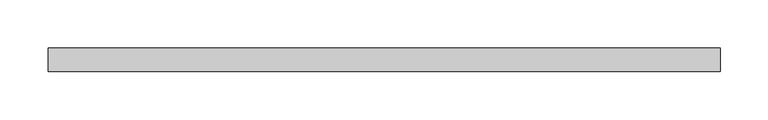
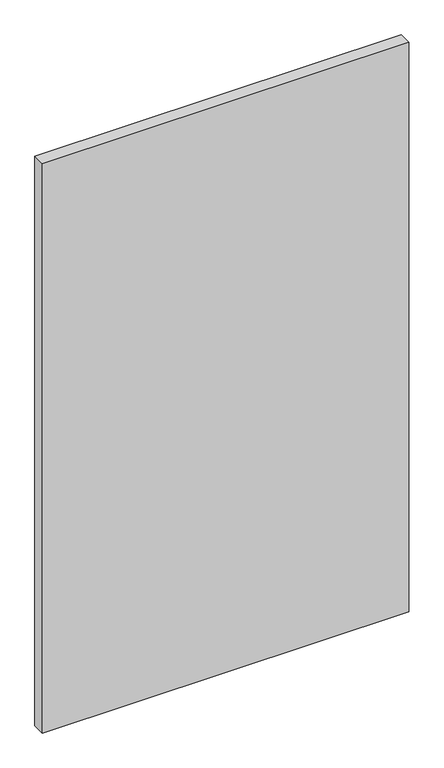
"""IFC4 building model written with IfcOpenShell, lengths in millimetres: plate geometry, Системная панель : С остеклением."""

import ifcopenshell
import ifcopenshell.guid

model = None  # the IFC model being written
_history = None  # IfcOwnerHistory: only IFC2X3 demands one
_inside = {}  # id of a spatial element -> (the spatial element, [elements in it])
_under = {}  # id of a project, library or spatial element -> (it, [spatial elements below it])
_declared = {}  # id of a project -> (the project, [libraries it declares])
_typed = {}  # id of a type object -> (the type object, [elements of that type])
_made_of = {}  # id of a material, layer set ... -> (it, [elements and type objects made of it])


def new_model(schema):
    """Start an empty IFC model of exactly this schema.

    Asked for "IFC4X3", IfcOpenShell would pick the latest addendum, in which some entities
    have other attributes; the version numbers below select the first issue.
    IFC2X3 requires an IfcOwnerHistory on every rooted entity: one is made here for all.
    """
    global model, _history
    if schema == "IFC4X3":
        model = ifcopenshell.file(schema_version=(4, 3, 0, 0))
    else:
        model = ifcopenshell.file(schema=schema)
    _inside.clear()
    _under.clear()
    _declared.clear()
    _typed.clear()
    _made_of.clear()
    _history = None
    if model.schema == "IFC2X3":
        org = make("IfcOrganization", Name="unknown")
        user = make(
            "IfcPersonAndOrganization",
            ThePerson=make("IfcPerson", FamilyName="unknown"),
            TheOrganization=org,
        )
        app = make(
            "IfcApplication",
            ApplicationDeveloper=org,
            Version="unknown",
            ApplicationFullName="unknown",
            ApplicationIdentifier="unknown",
        )
        _history = make(
            "IfcOwnerHistory",
            OwningUser=user,
            OwningApplication=app,
            ChangeAction="ADDED",
            CreationDate=0,
        )
    return model


def make(cls, **values):
    """One entity of the class cls with the attributes given. An attribute that is None is left unset."""
    return model.create_entity(
        cls, **{name: value for name, value in values.items() if value is not None}
    )


def rooted(cls, **values):
    """An entity with a GlobalId (a new one), such as an element, a storey or a relation."""
    return make(cls, GlobalId=ifcopenshell.guid.new(), OwnerHistory=_history, **values)


def si_unit(unit_type, name, prefix=None):
    """IfcSIUnit, for example si_unit("LENGTHUNIT", "METRE", prefix="MILLI")."""
    return make("IfcSIUnit", UnitType=unit_type, Prefix=prefix, Name=name)


def assignment(units):
    """IfcUnitAssignment: the units of a project."""
    return None if units is None else make("IfcUnitAssignment", Units=units)


def point(xyz):
    """IfcCartesianPoint."""
    return None if xyz is None else make("IfcCartesianPoint", Coordinates=xyz)


def direction(xyz):
    """IfcDirection."""
    return None if xyz is None else make("IfcDirection", DirectionRatios=xyz)


def frame(location, z_axis=None, x_axis=None):
    """IfcAxis2Placement3D, a coordinate frame: its origin and axes. An axis left out is left unset."""
    return make(
        "IfcAxis2Placement3D",
        Location=point(location),
        Axis=direction(z_axis),
        RefDirection=direction(x_axis),
    )


def origin():
    """The frame at (0, 0, 0) with its axes left unset."""
    return frame((0.0, 0.0, 0.0))


def origin_with_axes():
    """The frame at (0, 0, 0) with the z axis (0, 0, 1) and the x axis (1, 0, 0) written out."""
    return frame((0.0, 0.0, 0.0), z_axis=(0.0, 0.0, 1.0), x_axis=(1.0, 0.0, 0.0))


def place(relative_to, where):
    """IfcLocalPlacement: puts the frame where relative to a parent placement (None: the world)."""
    return make(
        "IfcLocalPlacement", PlacementRelTo=relative_to, RelativePlacement=where
    )


def context(
    kind, dimensions, precision=None, world=None, true_north=None, identifier=None
):
    """IfcGeometricRepresentationContext, for example the 3D "Model" context."""
    return make(
        "IfcGeometricRepresentationContext",
        ContextIdentifier=identifier,
        ContextType=kind,
        CoordinateSpaceDimension=dimensions,
        Precision=precision,
        WorldCoordinateSystem=world,
        TrueNorth=true_north,
    )


def project(units=None, contexts=None):
    """IfcProject with its units and contexts."""
    return rooted(
        "IfcProject",
        Name="project",
        RepresentationContexts=contexts,
        UnitsInContext=assignment(units),
    )


def spatial(cls, under=None, at=None, **own):
    """A site, building, storey or space (cls), placed at a placement, below another one or the project."""
    s = rooted(cls, ObjectPlacement=at, **own)
    if under is not None:
        _under.setdefault(under.id(), (under, []))[1].append(s)
    return s


def polyline(points):
    """IfcPolyline through the points."""
    return make("IfcPolyline", Points=[point(p) for p in points])


def outline(outer, holes=None, kind="AREA"):
    """IfcArbitraryClosedProfileDef: a profile drawn as a closed curve; with holes, ...WithVoids."""
    if holes is None:
        return make("IfcArbitraryClosedProfileDef", ProfileType=kind, OuterCurve=outer)
    return make(
        "IfcArbitraryProfileDefWithVoids",
        ProfileType=kind,
        OuterCurve=outer,
        InnerCurves=holes,
    )


def extrude(swept, where, along, depth):
    """IfcExtrudedAreaSolid: the profile swept, set in the frame where, extruded along a direction by depth."""
    return make(
        "IfcExtrudedAreaSolid",
        SweptArea=swept,
        Position=where,
        ExtrudedDirection=direction(along),
        Depth=depth,
    )


def shape(context_of_items, identifier, shape_type, items):
    """IfcShapeRepresentation: the items that make up one representation, for example the "Body"."""
    return make(
        "IfcShapeRepresentation",
        ContextOfItems=context_of_items,
        RepresentationIdentifier=identifier,
        RepresentationType=shape_type,
        Items=items,
    )


def source(mapping_origin, context_of_items, identifier, shape_type, items):
    """IfcRepresentationMap: a shape defined once, which mapped items show again and again."""
    return make(
        "IfcRepresentationMap",
        MappingOrigin=mapping_origin,
        MappedRepresentation=shape(context_of_items, identifier, shape_type, items),
    )


def transform(
    local_origin,
    x_axis=None,
    y_axis=None,
    z_axis=None,
    scale=None,
    scale2=None,
    scale3=None,
    uniform=True,
):
    """IfcCartesianTransformationOperator3D, or its non-uniform kind. x_axis, y_axis, z_axis: its Axis1, 2, 3."""
    if uniform:
        return make(
            "IfcCartesianTransformationOperator3D",
            Axis1=direction(x_axis),
            Axis2=direction(y_axis),
            LocalOrigin=point(local_origin),
            Scale=scale,
            Axis3=direction(z_axis),
        )
    return make(
        "IfcCartesianTransformationOperator3DnonUniform",
        Axis1=direction(x_axis),
        Axis2=direction(y_axis),
        LocalOrigin=point(local_origin),
        Scale=scale,
        Axis3=direction(z_axis),
        Scale2=scale2,
        Scale3=scale3,
    )


def mapped(mapping_source, mapping_target):
    """IfcMappedItem: shows the shape of a source again, moved by a transform."""
    return make(
        "IfcMappedItem", MappingSource=mapping_source, MappingTarget=mapping_target
    )


def made_of(thing, what):
    """Note that an element or type object is made of a material, layer set ...; save() writes the relation."""
    if what is not None:
        _made_of.setdefault(what.id(), (what, []))[1].append(thing)
    return thing


def element(
    cls,
    number,
    at=None,
    inside=None,
    cuts=None,
    type_object=None,
    material=None,
    context=None,
    identifier="Body",
    shape_type=None,
    held_by="IfcProductDefinitionShape",
    body=None,
    shapes=None,
    **own,
):
    """One element of the class cls, such as IfcWall. Its Tag is "e" and its number.

    at: its placement. inside: the storey or other place that contains it. cuts: it is an
    opening in that element (IfcRelVoidsElement). A single representation is given by context,
    identifier, shape_type and body (its items); several are given by shapes. held_by: the class
    of the entity that holds the representations. save() writes the other relations.
    """
    e = rooted(cls, Tag="e%d" % number, ObjectPlacement=at, **own)
    if body is not None:
        shapes = [shape(context, identifier, shape_type, body)]
    if shapes is not None:
        e.Representation = make(held_by, Representations=shapes)
    if inside is not None:
        _inside.setdefault(inside.id(), (inside, []))[1].append(e)
    if cuts is not None:
        rooted(
            "IfcRelVoidsElement", RelatingBuildingElement=cuts, RelatedOpeningElement=e
        )
    if type_object is not None:
        _typed.setdefault(type_object.id(), (type_object, []))[1].append(e)
    return made_of(e, material)


def aggregate(whole, parts):
    """IfcRelAggregates: a whole, such as a stair, and the parts it consists of."""
    return rooted("IfcRelAggregates", RelatingObject=whole, RelatedObjects=parts)


def save(model, path):
    """Write the relations noted so far, then the file.

    IfcRelAggregates (storeys below a building ...), IfcRelContainedInSpatialStructure (elements
    in a storey), IfcRelDefinesByType, IfcRelAssociatesMaterial and IfcRelDeclares: one each for
    every whole, place, type object, material and project.
    """
    for whole, parts in _under.values():
        aggregate(whole, parts)
    for where, things in _inside.values():
        rooted(
            "IfcRelContainedInSpatialStructure",
            RelatedElements=things,
            RelatingStructure=where,
        )
    for kind, things in _typed.values():
        rooted("IfcRelDefinesByType", RelatedObjects=things, RelatingType=kind)
    for what, things in _made_of.values():
        rooted("IfcRelAssociatesMaterial", RelatedObjects=things, RelatingMaterial=what)
    for by, libraries in _declared.values():
        rooted("IfcRelDeclares", RelatingContext=by, RelatedDefinitions=libraries)
    model.write(path)


def plate_4c5048e9(model_context):
    return source(origin(), model_context, "Body", "SweptSolid", [
        extrude(outline(polyline([(350.0, 24.5), (-350.0, 24.5), (-350.0, 49.5), (350.0, 49.5), (350.0, 24.5)])), origin_with_axes(), (0.0, 0.0, 1.0), 1150.0),
    ])


if __name__ == "__main__":
    model = new_model("IFC4")
    model_context = context("Model", 3, world=origin())
    ifc_project = project(units=[si_unit("LENGTHUNIT", "METRE", prefix="MILLI")], contexts=[model_context])
    site = spatial("IfcSite", under=ifc_project)
    building = spatial("IfcBuilding", under=site)
    placement = place(None, origin())
    plate_shape = plate_4c5048e9(model_context)
    element("IfcPlate", 1, ObjectType="Системная панель : С остеклением", at=placement, inside=building, context=model_context, shape_type="MappedRepresentation", body=[
        mapped(plate_shape, transform((0.0, 0.0, 0.0), x_axis=(1.0, 0.0, 0.0), y_axis=(0.0, 1.0, 0.0), z_axis=(0.0, 0.0, 1.0))),
    ])
    save(model, "model.ifc")
